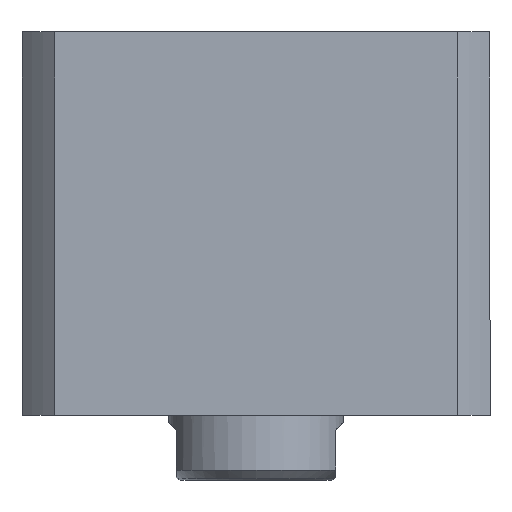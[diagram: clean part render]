
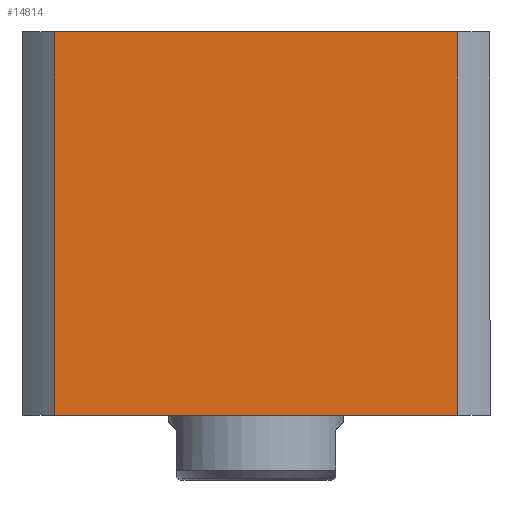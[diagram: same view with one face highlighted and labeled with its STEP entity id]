
A CAD part, front view. The second image highlights one B-rep face of the part: STEP entity #14814.
In plain terms, the highlighted planar face has unit normal (0, -1, 0) as drawn and (0, 1, 0) by its records, which use the part's own axes.
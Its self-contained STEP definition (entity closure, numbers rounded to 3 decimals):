
#409 = CARTESIAN_POINT ( 'NONE',  ( 40.435, 47., 77. ) ) ;
#473 = EDGE_CURVE ( 'NONE', #4901, #15473, #5076, .T. ) ;
#738 = ORIENTED_EDGE ( 'NONE', *, *, #12111, .F. ) ;
#774 = VECTOR ( 'NONE', #7049, 1000. ) ;
#2262 = CARTESIAN_POINT ( 'NONE',  ( 40.435, 47., -223. ) ) ;
#2601 = LINE ( 'NONE', #2262, #6275 ) ;
#2904 = EDGE_CURVE ( 'NONE', #6122, #15473, #14516, .T. ) ;
#4901 = VERTEX_POINT ( 'NONE', #10201 ) ;
#5076 = LINE ( 'NONE', #14041, #10654 ) ;
#6122 = VERTEX_POINT ( 'NONE', #17140 ) ;
#6136 = CARTESIAN_POINT ( 'NONE',  ( -47., 47., 77. ) ) ;
#6193 = DIRECTION ( 'NONE',  ( 0., 0., -1. ) ) ;
#6275 = VECTOR ( 'NONE', #11928, 1000. ) ;
#7049 = DIRECTION ( 'NONE',  ( 0., 0., -1. ) ) ;
#7128 = FACE_OUTER_BOUND ( 'NONE', #9045, .T. ) ;
#8458 = DIRECTION ( 'NONE',  ( -1., 0., 0. ) ) ;
#8571 = ORIENTED_EDGE ( 'NONE', *, *, #473, .T. ) ;
#9045 = EDGE_LOOP ( 'NONE', ( #9309, #8571, #14836, #738 ) ) ;
#9280 = VECTOR ( 'NONE', #8458, 1000. ) ;
#9309 = ORIENTED_EDGE ( 'NONE', *, *, #14956, .F. ) ;
#10096 = VERTEX_POINT ( 'NONE', #409 ) ;
#10201 = CARTESIAN_POINT ( 'NONE',  ( 40.435, 47., 0. ) ) ;
#10654 = VECTOR ( 'NONE', #12643, 1000. ) ;
#11928 = DIRECTION ( 'NONE',  ( 0., 0., 1. ) ) ;
#12111 = EDGE_CURVE ( 'NONE', #10096, #6122, #12943, .T. ) ;
#12643 = DIRECTION ( 'NONE',  ( -1., 0., 0. ) ) ;
#12943 = LINE ( 'NONE', #16556, #9280 ) ;
#13020 = PLANE ( 'NONE',  #13338 ) ;
#13338 = AXIS2_PLACEMENT_3D ( 'NONE', #6136, #14413, #6193 ) ;
#14041 = CARTESIAN_POINT ( 'NONE',  ( -47., 47., 0. ) ) ;
#14413 = DIRECTION ( 'NONE',  ( 0., -1., 0. ) ) ;
#14516 = LINE ( 'NONE', #15285, #774 ) ;
#14814 = ADVANCED_FACE ( 'NONE', ( #7128 ), #13020, .F. ) ;
#14836 = ORIENTED_EDGE ( 'NONE', *, *, #2904, .F. ) ;
#14956 = EDGE_CURVE ( 'NONE', #4901, #10096, #2601, .T. ) ;
#15285 = CARTESIAN_POINT ( 'NONE',  ( -40.435, 47., -223. ) ) ;
#15473 = VERTEX_POINT ( 'NONE', #16677 ) ;
#16556 = CARTESIAN_POINT ( 'NONE',  ( -47., 47., 77. ) ) ;
#16677 = CARTESIAN_POINT ( 'NONE',  ( -40.435, 47., 0. ) ) ;
#17140 = CARTESIAN_POINT ( 'NONE',  ( -40.435, 47., 77. ) ) ;
